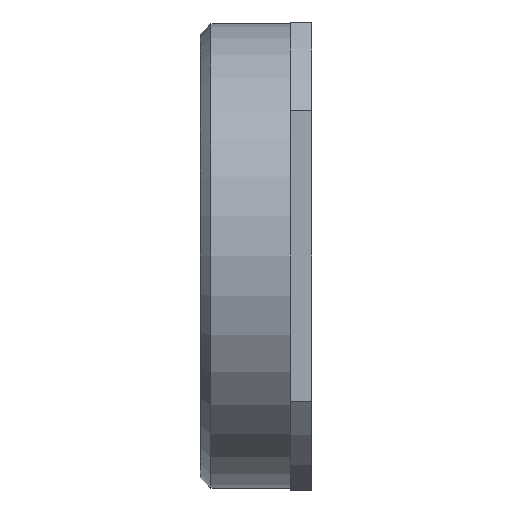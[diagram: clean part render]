
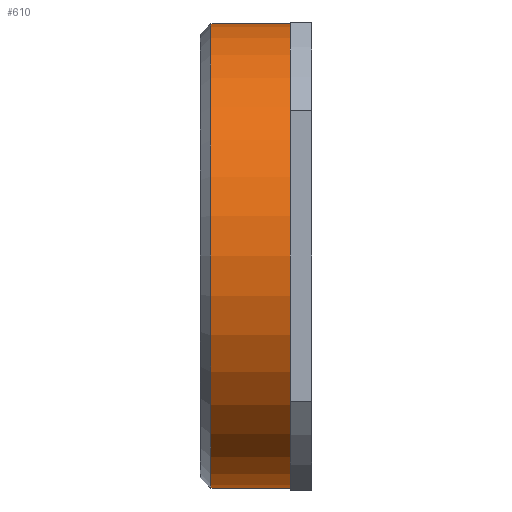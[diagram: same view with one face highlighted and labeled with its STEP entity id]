
A CAD part, front view. The second image highlights one B-rep face of the part: STEP entity #610.
In plain terms, the highlighted cylindrical face has radius 32.25 mm (diameter 64.5 mm), a full revolution.
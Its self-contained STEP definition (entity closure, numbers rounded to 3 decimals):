
#53=CYLINDRICAL_SURFACE('',#689,32.25);
#84=FACE_OUTER_BOUND('',#123,.T.);
#123=EDGE_LOOP('',(#524,#525,#526,#527));
#184=LINE('',#2535,#216);
#216=VECTOR('',#837,32.25);
#242=CIRCLE('',#688,32.25);
#243=CIRCLE('',#690,32.25);
#297=VERTEX_POINT('',#2529);
#298=VERTEX_POINT('',#2533);
#376=EDGE_CURVE('',#297,#297,#242,.T.);
#378=EDGE_CURVE('',#298,#298,#243,.T.);
#379=EDGE_CURVE('',#298,#297,#184,.T.);
#524=ORIENTED_EDGE('',*,*,#378,.F.);
#525=ORIENTED_EDGE('',*,*,#379,.T.);
#526=ORIENTED_EDGE('',*,*,#376,.T.);
#527=ORIENTED_EDGE('',*,*,#379,.F.);
#610=ADVANCED_FACE('',(#84),#53,.T.);
#688=AXIS2_PLACEMENT_3D('',#2530,#830,#831);
#689=AXIS2_PLACEMENT_3D('',#2532,#833,#834);
#690=AXIS2_PLACEMENT_3D('',#2534,#835,#836);
#830=DIRECTION('center_axis',(1.,0.,0.));
#831=DIRECTION('ref_axis',(0.,0.,-1.));
#833=DIRECTION('center_axis',(1.,0.,0.));
#834=DIRECTION('ref_axis',(0.,1.,0.));
#835=DIRECTION('center_axis',(1.,0.,0.));
#836=DIRECTION('ref_axis',(0.,0.,-1.));
#837=DIRECTION('',(-1.,0.,0.));
#2529=CARTESIAN_POINT('',(-14.,-32.25,0.));
#2530=CARTESIAN_POINT('Origin',(-14.,0.,0.));
#2532=CARTESIAN_POINT('Origin',(-8.5,0.,0.));
#2533=CARTESIAN_POINT('',(-3.,-32.25,0.));
#2534=CARTESIAN_POINT('Origin',(-3.,0.,0.));
#2535=CARTESIAN_POINT('',(-8.5,-32.25,0.));
